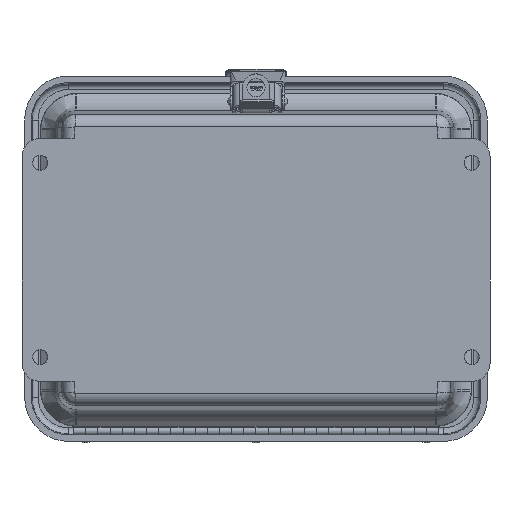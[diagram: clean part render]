
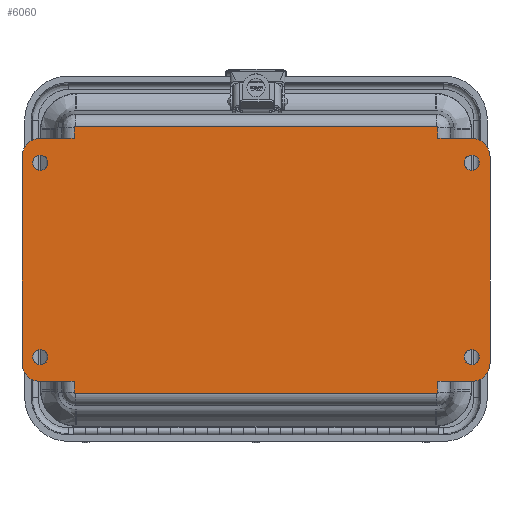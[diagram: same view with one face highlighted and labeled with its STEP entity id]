
A CAD part, front view. The second image highlights one B-rep face of the part: STEP entity #6060.
In plain terms, the highlighted planar face has unit normal (0, -1, 0) as drawn and (0, 0, 1) by its records, which use the part's own axes.
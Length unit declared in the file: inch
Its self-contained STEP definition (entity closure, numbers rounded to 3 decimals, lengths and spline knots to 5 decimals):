
#1099=CARTESIAN_POINT('',(-4.2815,-2.0,4.5));
#1100=VERTEX_POINT('',#1099);
#1101=CARTESIAN_POINT('',(-4.4375,-2.0,4.5));
#1102=DIRECTION('',(0.0,0.0,-1.0));
#1103=DIRECTION('',(-1.0,0.0,0.0));
#1104=AXIS2_PLACEMENT_3D('',#1101,#1102,#1103);
#1105=CIRCLE('',#1104,0.156);
#1106=EDGE_CURVE('',#1100,#1100,#1105,.T.);
#1127=CARTESIAN_POINT('',(4.5935,-2.0,4.5));
#1128=VERTEX_POINT('',#1127);
#1129=CARTESIAN_POINT('',(4.4375,-2.0,4.5));
#1130=DIRECTION('',(0.0,0.0,-1.0));
#1131=DIRECTION('',(-1.0,0.0,0.0));
#1132=AXIS2_PLACEMENT_3D('',#1129,#1130,#1131);
#1133=CIRCLE('',#1132,0.156);
#1134=EDGE_CURVE('',#1128,#1128,#1133,.T.);
#1155=CARTESIAN_POINT('',(4.5935,2.0,4.5));
#1156=VERTEX_POINT('',#1155);
#1157=CARTESIAN_POINT('',(4.4375,2.0,4.5));
#1158=DIRECTION('',(0.0,0.0,-1.0));
#1159=DIRECTION('',(-1.0,0.0,0.0));
#1160=AXIS2_PLACEMENT_3D('',#1157,#1158,#1159);
#1161=CIRCLE('',#1160,0.156);
#1162=EDGE_CURVE('',#1156,#1156,#1161,.T.);
#1183=CARTESIAN_POINT('',(-4.2815,2.0,4.5));
#1184=VERTEX_POINT('',#1183);
#1185=CARTESIAN_POINT('',(-4.4375,2.0,4.5));
#1186=DIRECTION('',(0.0,0.0,-1.0));
#1187=DIRECTION('',(-1.0,0.0,0.0));
#1188=AXIS2_PLACEMENT_3D('',#1185,#1186,#1187);
#1189=CIRCLE('',#1188,0.156);
#1190=EDGE_CURVE('',#1184,#1184,#1189,.T.);
#5288=CARTESIAN_POINT('',(-3.74199,-2.5,4.5));
#5289=VERTEX_POINT('',#5288);
#5299=CARTESIAN_POINT('',(-4.4375,-2.5,4.5));
#5300=VERTEX_POINT('',#5299);
#5301=CARTESIAN_POINT('',(-3.74199,-2.5,4.5));
#5302=DIRECTION('',(-1.0,0.0,0.0));
#5303=VECTOR('',#5302,0.69551);
#5304=LINE('',#5301,#5303);
#5305=EDGE_CURVE('',#5289,#5300,#5304,.T.);
#5387=CARTESIAN_POINT('',(-3.71855,-2.74219,4.5));
#5388=VERTEX_POINT('',#5387);
#5396=CARTESIAN_POINT('',(-3.74199,-2.71875,4.5));
#5397=VERTEX_POINT('',#5396);
#5398=CARTESIAN_POINT('',(-3.71855,-2.71875,4.5));
#5399=DIRECTION('',(0.0,0.0,-1.));
#5400=DIRECTION('',(-0.999,-0.044,0.0));
#5401=AXIS2_PLACEMENT_3D('',#5398,#5399,#5400);
#5402=CIRCLE('',#5401,0.02344);
#5403=EDGE_CURVE('',#5388,#5397,#5402,.T.);
#5421=CARTESIAN_POINT('',(-3.74199,-2.71875,4.5));
#5422=DIRECTION('',(0.0,1.0,0.0));
#5423=VECTOR('',#5422,0.21875);
#5424=LINE('',#5421,#5423);
#5425=EDGE_CURVE('',#5397,#5289,#5424,.T.);
#5526=CARTESIAN_POINT('',(-3.74199,2.5,4.5));
#5527=VERTEX_POINT('',#5526);
#5535=CARTESIAN_POINT('',(-3.74199,2.71875,4.5));
#5536=VERTEX_POINT('',#5535);
#5537=CARTESIAN_POINT('',(-3.74199,2.5,4.5));
#5538=DIRECTION('',(0.0,1.0,0.0));
#5539=VECTOR('',#5538,0.21875);
#5540=LINE('',#5537,#5539);
#5541=EDGE_CURVE('',#5527,#5536,#5540,.T.);
#5579=CARTESIAN_POINT('',(-4.4375,2.5,4.5));
#5580=VERTEX_POINT('',#5579);
#5581=CARTESIAN_POINT('',(-4.4375,2.5,4.5));
#5582=DIRECTION('',(1.0,0.0,0.0));
#5583=VECTOR('',#5582,0.69551);
#5584=LINE('',#5581,#5583);
#5585=EDGE_CURVE('',#5580,#5527,#5584,.T.);
#5667=CARTESIAN_POINT('',(-3.71855,2.74219,4.5));
#5668=VERTEX_POINT('',#5667);
#5678=CARTESIAN_POINT('',(-3.71855,2.71875,4.5));
#5679=DIRECTION('',(0.0,0.0,-1.));
#5680=DIRECTION('',(-0.999,0.044,0.0));
#5681=AXIS2_PLACEMENT_3D('',#5678,#5679,#5680);
#5682=CIRCLE('',#5681,0.02344);
#5683=EDGE_CURVE('',#5536,#5668,#5682,.T.);
#5714=CARTESIAN_POINT('',(3.71855,2.74219,4.5));
#5715=VERTEX_POINT('',#5714);
#5716=CARTESIAN_POINT('',(-3.71855,2.74219,4.5));
#5717=DIRECTION('',(1.0,0.0,0.0));
#5718=VECTOR('',#5717,7.4371);
#5719=LINE('',#5716,#5718);
#5720=EDGE_CURVE('',#5668,#5715,#5719,.T.);
#5746=CARTESIAN_POINT('',(3.74199,2.5,4.5));
#5747=VERTEX_POINT('',#5746);
#5757=CARTESIAN_POINT('',(4.4375,2.5,4.5));
#5758=VERTEX_POINT('',#5757);
#5759=CARTESIAN_POINT('',(3.74199,2.5,4.5));
#5760=DIRECTION('',(1.0,0.0,0.0));
#5761=VECTOR('',#5760,0.69551);
#5762=LINE('',#5759,#5761);
#5763=EDGE_CURVE('',#5747,#5758,#5762,.T.);
#5798=CARTESIAN_POINT('',(3.74199,2.71875,4.5));
#5799=VERTEX_POINT('',#5798);
#5807=CARTESIAN_POINT('',(3.74199,2.71875,4.5));
#5808=DIRECTION('',(0.0,-1.0,0.0));
#5809=VECTOR('',#5808,0.21875);
#5810=LINE('',#5807,#5809);
#5811=EDGE_CURVE('',#5799,#5747,#5810,.T.);
#5939=CARTESIAN_POINT('',(3.71855,2.71875,4.5));
#5940=DIRECTION('',(0.0,0.0,-1.));
#5941=DIRECTION('',(0.999,0.044,0.0));
#5942=AXIS2_PLACEMENT_3D('',#5939,#5940,#5941);
#5943=CIRCLE('',#5942,0.02344);
#5944=EDGE_CURVE('',#5715,#5799,#5943,.T.);
#5950=CARTESIAN_POINT('',(0.,0.0,4.5));
#5951=DIRECTION('',(0.0,0.0,1.0));
#5952=DIRECTION('',(1.0,0.0,0.0));
#5953=AXIS2_PLACEMENT_3D('',#5950,#5951,#5952);
#5954=PLANE('',#5953);
#5955=ORIENTED_EDGE('',*,*,#5305,.F.);
#5956=ORIENTED_EDGE('',*,*,#5425,.F.);
#5957=ORIENTED_EDGE('',*,*,#5403,.F.);
#5958=CARTESIAN_POINT('',(3.71855,-2.74219,4.5));
#5959=VERTEX_POINT('',#5958);
#5960=CARTESIAN_POINT('',(3.71855,-2.74219,4.5));
#5961=DIRECTION('',(-1.0,0.0,0.0));
#5962=VECTOR('',#5961,7.4371);
#5963=LINE('',#5960,#5962);
#5964=EDGE_CURVE('',#5959,#5388,#5963,.T.);
#5965=ORIENTED_EDGE('',*,*,#5964,.F.);
#5966=CARTESIAN_POINT('',(3.74199,-2.71875,4.5));
#5967=VERTEX_POINT('',#5966);
#5968=CARTESIAN_POINT('',(3.71855,-2.71875,4.5));
#5969=DIRECTION('',(0.0,0.0,-1.));
#5970=DIRECTION('',(0.999,-0.044,0.0));
#5971=AXIS2_PLACEMENT_3D('',#5968,#5969,#5970);
#5972=CIRCLE('',#5971,0.02344);
#5973=EDGE_CURVE('',#5967,#5959,#5972,.T.);
#5974=ORIENTED_EDGE('',*,*,#5973,.F.);
#5975=CARTESIAN_POINT('',(3.74199,-2.5,4.5));
#5976=VERTEX_POINT('',#5975);
#5977=CARTESIAN_POINT('',(3.74199,-2.5,4.5));
#5978=DIRECTION('',(0.0,-1.0,0.0));
#5979=VECTOR('',#5978,0.21875);
#5980=LINE('',#5977,#5979);
#5981=EDGE_CURVE('',#5976,#5967,#5980,.T.);
#5982=ORIENTED_EDGE('',*,*,#5981,.F.);
#5983=CARTESIAN_POINT('',(4.4375,-2.5,4.5));
#5984=VERTEX_POINT('',#5983);
#5985=CARTESIAN_POINT('',(4.4375,-2.5,4.5));
#5986=DIRECTION('',(-1.0,0.0,0.0));
#5987=VECTOR('',#5986,0.69551);
#5988=LINE('',#5985,#5987);
#5989=EDGE_CURVE('',#5984,#5976,#5988,.T.);
#5990=ORIENTED_EDGE('',*,*,#5989,.F.);
#5991=CARTESIAN_POINT('',(4.8125,-2.125,4.5));
#5992=VERTEX_POINT('',#5991);
#5993=CARTESIAN_POINT('',(4.4375,-2.125,4.5));
#5994=DIRECTION('',(0.0,0.0,-1.));
#5995=DIRECTION('',(0.707,-0.707,0.0));
#5996=AXIS2_PLACEMENT_3D('',#5993,#5994,#5995);
#5997=CIRCLE('',#5996,0.375);
#5998=EDGE_CURVE('',#5992,#5984,#5997,.T.);
#5999=ORIENTED_EDGE('',*,*,#5998,.F.);
#6000=CARTESIAN_POINT('',(4.8125,2.125,4.5));
#6001=VERTEX_POINT('',#6000);
#6002=CARTESIAN_POINT('',(4.8125,2.125,4.5));
#6003=DIRECTION('',(0.0,-1.0,0.0));
#6004=VECTOR('',#6003,4.25);
#6005=LINE('',#6002,#6004);
#6006=EDGE_CURVE('',#6001,#5992,#6005,.T.);
#6007=ORIENTED_EDGE('',*,*,#6006,.F.);
#6008=CARTESIAN_POINT('',(4.4375,2.125,4.5));
#6009=DIRECTION('',(0.0,0.0,-1.0));
#6010=DIRECTION('',(0.707,0.707,0.0));
#6011=AXIS2_PLACEMENT_3D('',#6008,#6009,#6010);
#6012=CIRCLE('',#6011,0.375);
#6013=EDGE_CURVE('',#5758,#6001,#6012,.T.);
#6014=ORIENTED_EDGE('',*,*,#6013,.F.);
#6015=ORIENTED_EDGE('',*,*,#5763,.F.);
#6016=ORIENTED_EDGE('',*,*,#5811,.F.);
#6017=ORIENTED_EDGE('',*,*,#5944,.F.);
#6018=ORIENTED_EDGE('',*,*,#5720,.F.);
#6019=ORIENTED_EDGE('',*,*,#5683,.F.);
#6020=ORIENTED_EDGE('',*,*,#5541,.F.);
#6021=ORIENTED_EDGE('',*,*,#5585,.F.);
#6022=CARTESIAN_POINT('',(-4.8125,2.125,4.5));
#6023=VERTEX_POINT('',#6022);
#6024=CARTESIAN_POINT('',(-4.4375,2.125,4.5));
#6025=DIRECTION('',(0.0,0.0,-1.0));
#6026=DIRECTION('',(-0.707,0.707,0.0));
#6027=AXIS2_PLACEMENT_3D('',#6024,#6025,#6026);
#6028=CIRCLE('',#6027,0.375);
#6029=EDGE_CURVE('',#6023,#5580,#6028,.T.);
#6030=ORIENTED_EDGE('',*,*,#6029,.F.);
#6031=CARTESIAN_POINT('',(-4.8125,-2.125,4.5));
#6032=VERTEX_POINT('',#6031);
#6033=CARTESIAN_POINT('',(-4.8125,2.125,4.5));
#6034=DIRECTION('',(0.0,-1.0,0.0));
#6035=VECTOR('',#6034,4.25);
#6036=LINE('',#6033,#6035);
#6037=EDGE_CURVE('',#6023,#6032,#6036,.T.);
#6038=ORIENTED_EDGE('',*,*,#6037,.T.);
#6039=CARTESIAN_POINT('',(-4.4375,-2.125,4.5));
#6040=DIRECTION('',(0.0,0.0,-1.));
#6041=DIRECTION('',(-0.707,-0.707,0.0));
#6042=AXIS2_PLACEMENT_3D('',#6039,#6040,#6041);
#6043=CIRCLE('',#6042,0.375);
#6044=EDGE_CURVE('',#5300,#6032,#6043,.T.);
#6045=ORIENTED_EDGE('',*,*,#6044,.F.);
#6046=EDGE_LOOP('',(#5955,#5956,#5957,#5965,#5974,#5982,#5990,#5999,#6007,#6014,#6015,#6016,#6017,#6018,#6019,#6020,#6021,#6030,#6038,#6045));
#6047=FACE_OUTER_BOUND('',#6046,.T.);
#6048=ORIENTED_EDGE('',*,*,#1106,.T.);
#6049=EDGE_LOOP('',(#6048));
#6050=FACE_BOUND('',#6049,.T.);
#6051=ORIENTED_EDGE('',*,*,#1134,.T.);
#6052=EDGE_LOOP('',(#6051));
#6053=FACE_BOUND('',#6052,.T.);
#6054=ORIENTED_EDGE('',*,*,#1162,.T.);
#6055=EDGE_LOOP('',(#6054));
#6056=FACE_BOUND('',#6055,.T.);
#6057=ORIENTED_EDGE('',*,*,#1190,.T.);
#6058=EDGE_LOOP('',(#6057));
#6059=FACE_BOUND('',#6058,.T.);
#6060=ADVANCED_FACE('',(#6047,#6050,#6053,#6056,#6059),#5954,.T.);
